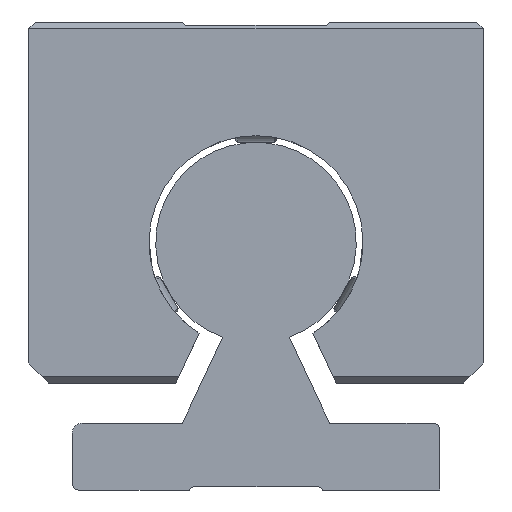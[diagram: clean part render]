
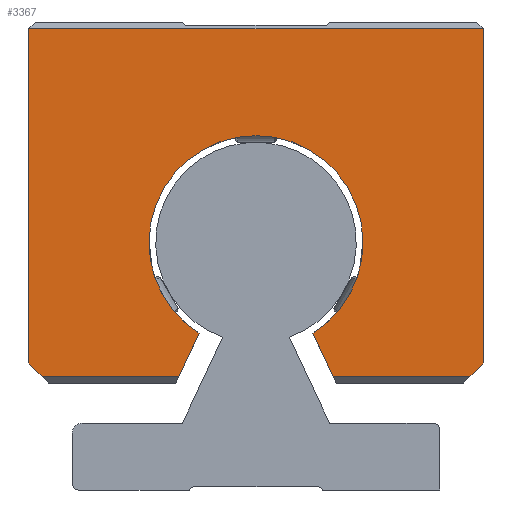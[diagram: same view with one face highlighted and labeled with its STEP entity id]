
A CAD part, left-side view. The second image highlights one B-rep face of the part: STEP entity #3367.
In plain terms, the highlighted planar face has unit normal (-1, 0, 0).
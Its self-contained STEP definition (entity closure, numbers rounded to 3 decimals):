
#2833=CARTESIAN_POINT('',(-17.0,-34.0,32.0));
#2834=VERTEX_POINT('',#2833);
#2872=CARTESIAN_POINT('',(-17.0,-34.0,-18.));
#2873=VERTEX_POINT('',#2872);
#2874=CARTESIAN_POINT('',(-17.0,-34.0,32.0));
#2875=DIRECTION('',(0.0,0.0,-1.0));
#2876=VECTOR('',#2875,50.);
#2877=LINE('',#2874,#2876);
#2878=EDGE_CURVE('',#2834,#2873,#2877,.T.);
#2963=CARTESIAN_POINT('',(-17.0,34.0,32.0));
#2964=VERTEX_POINT('',#2963);
#2971=CARTESIAN_POINT('',(-17.0,34.0,32.0));
#2972=DIRECTION('',(0.0,-1.0,0.0));
#2973=VECTOR('',#2972,68.0);
#2974=LINE('',#2971,#2973);
#2975=EDGE_CURVE('',#2964,#2834,#2974,.T.);
#2985=CARTESIAN_POINT('',(-17.0,32.,-20.));
#2986=VERTEX_POINT('',#2985);
#3003=CARTESIAN_POINT('',(-17.0,11.534,-20.));
#3004=VERTEX_POINT('',#3003);
#3011=CARTESIAN_POINT('',(-17.0,11.534,-20.));
#3012=DIRECTION('',(0.0,1.0,0.0));
#3013=VECTOR('',#3012,20.466);
#3014=LINE('',#3011,#3013);
#3015=EDGE_CURVE('',#3004,#2986,#3014,.T.);
#3074=CARTESIAN_POINT('',(-17.0,34.0,-18.));
#3075=VERTEX_POINT('',#3074);
#3076=CARTESIAN_POINT('',(-17.0,32.,-20.));
#3077=DIRECTION('',(0.0,0.707,0.707));
#3078=VECTOR('',#3077,2.828);
#3079=LINE('',#3076,#3078);
#3080=EDGE_CURVE('',#2986,#3075,#3079,.T.);
#3283=CARTESIAN_POINT('',(-17.0,-32.,-20.));
#3284=VERTEX_POINT('',#3283);
#3285=CARTESIAN_POINT('',(-17.0,-34.0,-18.));
#3286=DIRECTION('',(0.0,0.707,-0.707));
#3287=VECTOR('',#3286,2.828);
#3288=LINE('',#3285,#3287);
#3289=EDGE_CURVE('',#2873,#3284,#3288,.T.);
#3307=CARTESIAN_POINT('',(-17.0,-11.534,-20.));
#3308=VERTEX_POINT('',#3307);
#3309=CARTESIAN_POINT('',(-17.0,-32.,-20.));
#3310=DIRECTION('',(0.0,1.0,0.0));
#3311=VECTOR('',#3310,20.466);
#3312=LINE('',#3309,#3311);
#3313=EDGE_CURVE('',#3284,#3308,#3312,.T.);
#3325=CARTESIAN_POINT('',(-17.0,-22.5,32.75));
#3326=DIRECTION('',(1.0,0.0,0.0));
#3327=DIRECTION('',(0.0,0.0,-1.0));
#3328=AXIS2_PLACEMENT_3D('',#3325,#3326,#3327);
#3329=PLANE('',#3328);
#3330=ORIENTED_EDGE('',*,*,#3015,.F.);
#3331=CARTESIAN_POINT('',(-17.0,8.522,-13.542));
#3332=VERTEX_POINT('',#3331);
#3333=CARTESIAN_POINT('',(-17.0,8.522,-13.542));
#3334=DIRECTION('',(0.0,0.423,-0.906));
#3335=VECTOR('',#3334,7.126);
#3336=LINE('',#3333,#3335);
#3337=EDGE_CURVE('',#3332,#3004,#3336,.T.);
#3338=ORIENTED_EDGE('',*,*,#3337,.F.);
#3339=CARTESIAN_POINT('',(-17.0,-8.522,-13.542));
#3340=VERTEX_POINT('',#3339);
#3341=CARTESIAN_POINT('',(-17.0,0.0,0.));
#3342=DIRECTION('',(-1.0,0.0,0.0));
#3343=DIRECTION('',(0.0,-1.0,0.0));
#3344=AXIS2_PLACEMENT_3D('',#3341,#3342,#3343);
#3345=CIRCLE('',#3344,16.0);
#3346=EDGE_CURVE('',#3340,#3332,#3345,.T.);
#3347=ORIENTED_EDGE('',*,*,#3346,.F.);
#3348=CARTESIAN_POINT('',(-17.0,-11.534,-20.));
#3349=DIRECTION('',(0.0,0.423,0.906));
#3350=VECTOR('',#3349,7.126);
#3351=LINE('',#3348,#3350);
#3352=EDGE_CURVE('',#3308,#3340,#3351,.T.);
#3353=ORIENTED_EDGE('',*,*,#3352,.F.);
#3354=ORIENTED_EDGE('',*,*,#3313,.F.);
#3355=ORIENTED_EDGE('',*,*,#3289,.F.);
#3356=ORIENTED_EDGE('',*,*,#2878,.F.);
#3357=ORIENTED_EDGE('',*,*,#2975,.F.);
#3358=CARTESIAN_POINT('',(-17.0,34.0,-18.));
#3359=DIRECTION('',(0.0,0.0,1.0));
#3360=VECTOR('',#3359,50.);
#3361=LINE('',#3358,#3360);
#3362=EDGE_CURVE('',#3075,#2964,#3361,.T.);
#3363=ORIENTED_EDGE('',*,*,#3362,.F.);
#3364=ORIENTED_EDGE('',*,*,#3080,.F.);
#3365=EDGE_LOOP('',(#3330,#3338,#3347,#3353,#3354,#3355,#3356,#3357,#3363,#3364));
#3366=FACE_OUTER_BOUND('',#3365,.T.);
#3367=ADVANCED_FACE('',(#3366),#3329,.F.);
